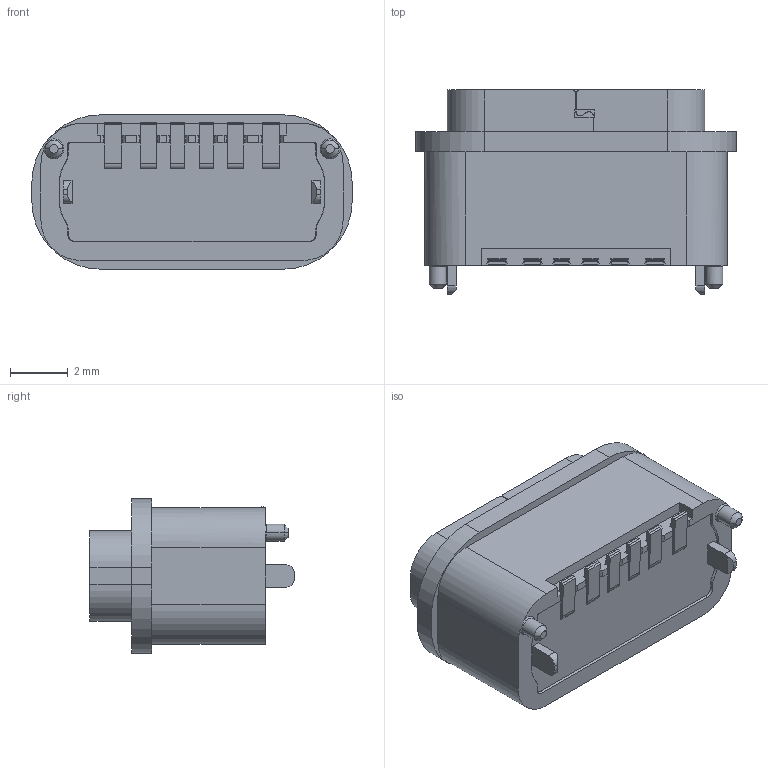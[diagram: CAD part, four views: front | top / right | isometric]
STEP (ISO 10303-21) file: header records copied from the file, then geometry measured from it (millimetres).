
FILE_DESCRIPTION((''),'2;1');
FILE_NAME('60-1','2023-11-13T15:51:39',('Administrator'),(''),'CREO PARAMETRIC BY PTC INC, 2019080','CREO PARAMETRIC BY PTC INC, 2019080','');
FILE_SCHEMA(('CONFIG_CONTROL_DESIGN'));
Length unit declared in the file: millimetre
Products named in the file (1): 60-1
Bounding box: 11.14 x 7.1 x 5.36 mm (x, y, z)
Volume: 194.7 mm3; surface area: 475.7 mm2
Topology: 1 solids, 5 shells, 732 faces, 1983 edges, 1290 vertices
Faces by surface type: plane 564, cylinder 126, cone 30, torus 12
Entity records: 22796 total; most frequent: CARTESIAN_POINT 4094, ORIENTED_EDGE 3966, DIRECTION 3723, EDGE_CURVE 1983, VECTOR 1663, LINE 1663, VERTEX_POINT 1290, AXIS2_PLACEMENT_3D 1030
